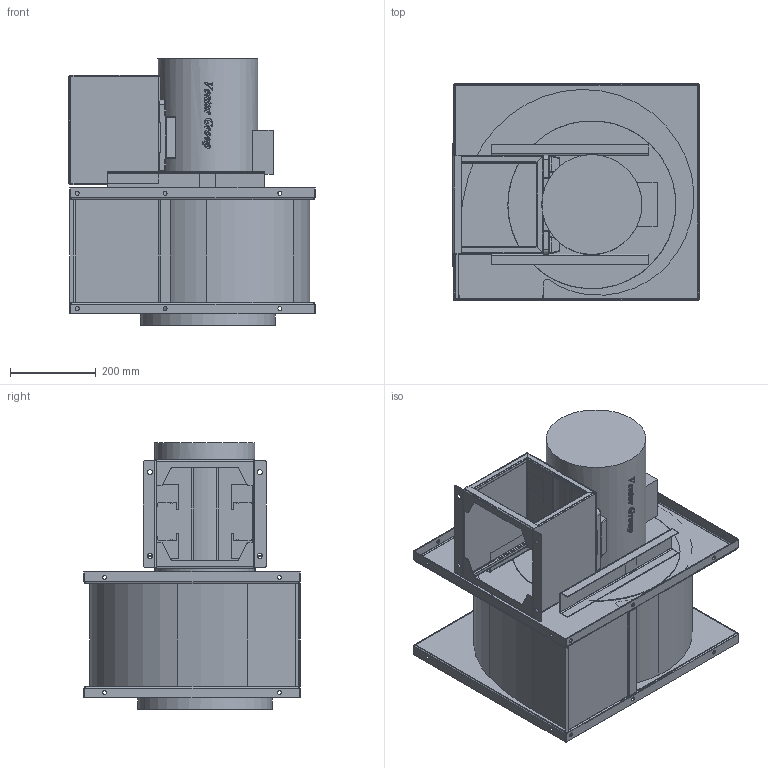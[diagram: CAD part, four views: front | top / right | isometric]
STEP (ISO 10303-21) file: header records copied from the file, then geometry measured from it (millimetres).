
FILE_DESCRIPTION(/* description */ (''),/* implementation_level */ '2;1');
FILE_NAME(/* name */ 'T:\BAZA\BAZA\Modele uproszczone\GMT\GMT_500_400T_LG270_42551850\GMT_500_400T_LG270_42551850.stp',/* time_stamp */ '2016-08-18T11:07:16+02:00',/* author */ ('tomaszm'),/* organization */ (''),/* preprocessor_version */ 'ST-DEVELOPER v16.5',/* originating_system */ 'Autodesk Inventor 2017',/* authorisation */ '');
FILE_SCHEMA (('AUTOMOTIVE_DESIGN { 1 0 10303 214 3 1 1 }'));
Products named in the file (1): GMT-500-400
Bounding box: 574 x 504 x 622.1 mm (x, y, z)
Volume: 69080702.6 mm3; surface area: 2476771.8 mm2
Topology: 2 solids, 2 shells, 1222 faces, 3397 edges, 2140 vertices
Faces by surface type: plane 610, bspline 299, cylinder 276, sphere 28, torus 9
Full cylindrical faces by diameter (mm): 9 x4, 9.2 x18, 12 x4, 233 x2, 312 x1, 392 x2
Entity records: 47995 total; most frequent: CARTESIAN_POINT 18039, ORIENTED_EDGE 6620, DIRECTION 5144, EDGE_CURVE 3305, VERTEX_POINT 2111, LINE 1972, VECTOR 1972, AXIS2_PLACEMENT_3D 1586
